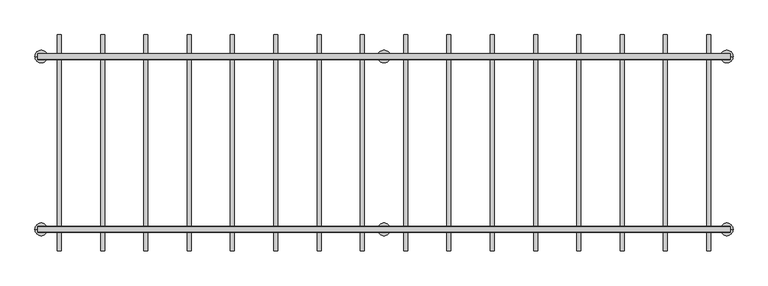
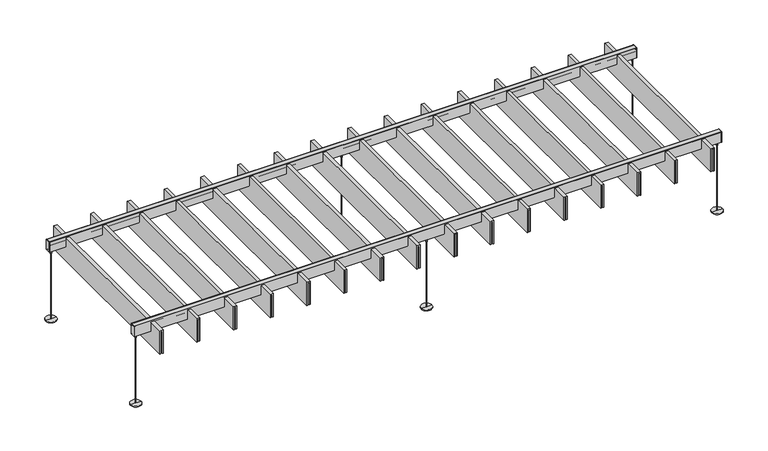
"""IFC4 building model written with IfcOpenShell, lengths in millimetres: light fixture geometry, Lighting_Fixture-Focal_Point-AirCore_Bridge-Truss-Seem_1_LED : FSM1SBW125LF30K1CUNVLD1J24_."""

from ifc_helpers import new_model, si_unit, frame, origin, place, context, project, spatial, polyline, circle_curve, outline, extrude, faceted_brep, source, transform, mapped, element, save
from ifc_brep_helpers import plane_surface, cylinder_surface, advanced_brep


def light_fixture_dba813e0(model_context):
    return source(origin(), model_context, "Body", "SolidModel", [
        extrude(outline(polyline([(2280.046875, 123.825), (2291.953125, 123.825), (2291.953125, -1343.025), (2280.046875, -1343.025), (2280.046875, 123.825)])), frame((0.0, 0.0, 486.3703125), z_axis=(0.0, 0.0, 1.0), x_axis=(1.0, 0.0, 0.0)), (0.0, 0.0, 1.0), 195.2625),
        extrude(outline(polyline([(689.5703125, 2299.890625), (689.5703125, 2272.109375), (486.3703125, 2272.109375), (486.3703125, 2280.046875), (681.6328125, 2280.046875), (681.6328125, 2291.953125), (486.3703125, 2291.953125), (486.3703125, 2299.890625), (689.5703125, 2299.890625)])), frame((0.0, -1371.6, 0.0), z_axis=(0.0, 1.0, 0.0), x_axis=(0.0, 0.0, 1.0)), (0.0, 0.0, 1.0), 1524.0),
        extrude(outline(polyline([(1975.246875, 123.825), (1987.153125, 123.825), (1987.153125, -1343.025), (1975.246875, -1343.025), (1975.246875, 123.825)])), frame((0.0, 0.0, 486.3703125), z_axis=(0.0, 0.0, 1.0), x_axis=(1.0, 0.0, 0.0)), (0.0, 0.0, 1.0), 195.2625),
        extrude(outline(polyline([(689.5703125, 1995.090625), (689.5703125, 1967.309375), (486.3703125, 1967.309375), (486.3703125, 1975.246875), (681.6328125, 1975.246875), (681.6328125, 1987.153125), (486.3703125, 1987.153125), (486.3703125, 1995.090625), (689.5703125, 1995.090625)])), frame((0.0, -1371.6, 0.0), z_axis=(0.0, 1.0, 0.0), x_axis=(0.0, 0.0, 1.0)), (0.0, 0.0, 1.0), 1524.0),
        extrude(outline(polyline([(1670.446875, 123.825), (1682.353125, 123.825), (1682.353125, -1343.025), (1670.446875, -1343.025), (1670.446875, 123.825)])), frame((0.0, 0.0, 486.3703125), z_axis=(0.0, 0.0, 1.0), x_axis=(1.0, 0.0, 0.0)), (0.0, 0.0, 1.0), 195.2625),
        extrude(outline(polyline([(689.5703125, 1690.290625), (689.5703125, 1662.509375), (486.3703125, 1662.509375), (486.3703125, 1670.446875), (681.6328125, 1670.446875), (681.6328125, 1682.353125), (486.3703125, 1682.353125), (486.3703125, 1690.290625), (689.5703125, 1690.290625)])), frame((0.0, -1371.6, 0.0), z_axis=(0.0, 1.0, 0.0), x_axis=(0.0, 0.0, 1.0)), (0.0, 0.0, 1.0), 1524.0),
        extrude(outline(polyline([(1365.646875, 123.825), (1377.553125, 123.825), (1377.553125, -1343.025), (1365.646875, -1343.025), (1365.646875, 123.825)])), frame((0.0, 0.0, 486.3703125), z_axis=(0.0, 0.0, 1.0), x_axis=(1.0, 0.0, 0.0)), (0.0, 0.0, 1.0), 195.2625),
        extrude(outline(polyline([(689.5703125, 1385.490625), (689.5703125, 1357.709375), (486.3703125, 1357.709375), (486.3703125, 1365.646875), (681.6328125, 1365.646875), (681.6328125, 1377.553125), (486.3703125, 1377.553125), (486.3703125, 1385.490625), (689.5703125, 1385.490625)])), frame((0.0, -1371.6, 0.0), z_axis=(0.0, 1.0, 0.0), x_axis=(0.0, 0.0, 1.0)), (0.0, 0.0, 1.0), 1524.0),
        extrude(outline(polyline([(1060.846875, 123.825), (1072.753125, 123.825), (1072.753125, -1343.025), (1060.846875, -1343.025), (1060.846875, 123.825)])), frame((0.0, 0.0, 486.3703125), z_axis=(0.0, 0.0, 1.0), x_axis=(1.0, 0.0, 0.0)), (0.0, 0.0, 1.0), 195.2625),
        extrude(outline(polyline([(689.5703125, 1080.690625), (689.5703125, 1052.909375), (486.3703125, 1052.909375), (486.3703125, 1060.846875), (681.6328125, 1060.846875), (681.6328125, 1072.753125), (486.3703125, 1072.753125), (486.3703125, 1080.690625), (689.5703125, 1080.690625)])), frame((0.0, -1371.6, 0.0), z_axis=(0.0, 1.0, 0.0), x_axis=(0.0, 0.0, 1.0)), (0.0, 0.0, 1.0), 1524.0),
        extrude(outline(polyline([(756.046875, 123.825), (767.953125, 123.825), (767.953125, -1343.025), (756.046875, -1343.025), (756.046875, 123.825)])), frame((0.0, 0.0, 486.3703125), z_axis=(0.0, 0.0, 1.0), x_axis=(1.0, 0.0, 0.0)), (0.0, 0.0, 1.0), 195.2625),
        extrude(outline(polyline([(689.5703125, 775.890625), (689.5703125, 748.109375), (486.3703125, 748.109375), (486.3703125, 756.046875), (681.6328125, 756.046875), (681.6328125, 767.953125), (486.3703125, 767.953125), (486.3703125, 775.890625), (689.5703125, 775.890625)])), frame((0.0, -1371.6, 0.0), z_axis=(0.0, 1.0, 0.0), x_axis=(0.0, 0.0, 1.0)), (0.0, 0.0, 1.0), 1524.0),
        extrude(outline(polyline([(451.246875, 123.825), (463.153125, 123.825), (463.153125, -1343.025), (451.246875, -1343.025), (451.246875, 123.825)])), frame((0.0, 0.0, 486.3703125), z_axis=(0.0, 0.0, 1.0), x_axis=(1.0, 0.0, 0.0)), (0.0, 0.0, 1.0), 195.2625),
        extrude(outline(polyline([(689.5703125, 471.090625), (689.5703125, 443.309375), (486.3703125, 443.309375), (486.3703125, 451.246875), (681.6328125, 451.246875), (681.6328125, 463.153125), (486.3703125, 463.153125), (486.3703125, 471.090625), (689.5703125, 471.090625)])), frame((0.0, -1371.6, 0.0), z_axis=(0.0, 1.0, 0.0), x_axis=(0.0, 0.0, 1.0)), (0.0, 0.0, 1.0), 1524.0),
        extrude(outline(polyline([(146.446875, 123.825), (158.353125, 123.825), (158.353125, -1343.025), (146.446875, -1343.025), (146.446875, 123.825)])), frame((0.0, 0.0, 486.3703125), z_axis=(0.0, 0.0, 1.0), x_axis=(1.0, 0.0, 0.0)), (0.0, 0.0, 1.0), 195.2625),
        extrude(outline(polyline([(689.5703125, 166.290625), (689.5703125, 138.509375), (486.3703125, 138.509375), (486.3703125, 146.446875), (681.6328125, 146.446875), (681.6328125, 158.353125), (486.3703125, 158.353125), (486.3703125, 166.290625), (689.5703125, 166.290625)])), frame((0.0, -1371.6, 0.0), z_axis=(0.0, 1.0, 0.0), x_axis=(0.0, 0.0, 1.0)), (0.0, 0.0, 1.0), 1524.0),
        extrude(outline(polyline([(-158.353125, 123.825), (-146.446875, 123.825), (-146.446875, -1343.025), (-158.353125, -1343.025), (-158.353125, 123.825)])), frame((0.0, 0.0, 486.3703125), z_axis=(0.0, 0.0, 1.0), x_axis=(1.0, 0.0, 0.0)), (0.0, 0.0, 1.0), 195.2625),
        extrude(outline(polyline([(689.5703125, -138.509375), (689.5703125, -166.290625), (486.3703125, -166.290625), (486.3703125, -158.353125), (681.6328125, -158.353125), (681.6328125, -146.446875), (486.3703125, -146.446875), (486.3703125, -138.509375), (689.5703125, -138.509375)])), frame((0.0, -1371.6, 0.0), z_axis=(0.0, 1.0, 0.0), x_axis=(0.0, 0.0, 1.0)), (0.0, 0.0, 1.0), 1524.0),
        extrude(outline(polyline([(-463.153125, 123.825), (-451.246875, 123.825), (-451.246875, -1343.025), (-463.153125, -1343.025), (-463.153125, 123.825)])), frame((0.0, 0.0, 486.3703125), z_axis=(0.0, 0.0, 1.0), x_axis=(1.0, 0.0, 0.0)), (0.0, 0.0, 1.0), 195.2625),
        extrude(outline(polyline([(689.5703125, -443.309375), (689.5703125, -471.090625), (486.3703125, -471.090625), (486.3703125, -463.153125), (681.6328125, -463.153125), (681.6328125, -451.246875), (486.3703125, -451.246875), (486.3703125, -443.309375), (689.5703125, -443.309375)])), frame((0.0, -1371.6, 0.0), z_axis=(0.0, 1.0, 0.0), x_axis=(0.0, 0.0, 1.0)), (0.0, 0.0, 1.0), 1524.0),
        extrude(outline(polyline([(-767.953125, 123.825), (-756.046875, 123.825), (-756.046875, -1343.025), (-767.953125, -1343.025), (-767.953125, 123.825)])), frame((0.0, 0.0, 486.3703125), z_axis=(0.0, 0.0, 1.0), x_axis=(1.0, 0.0, 0.0)), (0.0, 0.0, 1.0), 195.2625),
        extrude(outline(polyline([(689.5703125, -748.109375), (689.5703125, -775.890625), (486.3703125, -775.890625), (486.3703125, -767.953125), (681.6328125, -767.953125), (681.6328125, -756.046875), (486.3703125, -756.046875), (486.3703125, -748.109375), (689.5703125, -748.109375)])), frame((0.0, -1371.6, 0.0), z_axis=(0.0, 1.0, 0.0), x_axis=(0.0, 0.0, 1.0)), (0.0, 0.0, 1.0), 1524.0),
        extrude(outline(polyline([(-1072.753125, 123.825), (-1060.846875, 123.825), (-1060.846875, -1343.025), (-1072.753125, -1343.025), (-1072.753125, 123.825)])), frame((0.0, 0.0, 486.3703125), z_axis=(0.0, 0.0, 1.0), x_axis=(1.0, 0.0, 0.0)), (0.0, 0.0, 1.0), 195.2625),
        extrude(outline(polyline([(689.5703125, -1052.909375), (689.5703125, -1080.690625), (486.3703125, -1080.690625), (486.3703125, -1072.753125), (681.6328125, -1072.753125), (681.6328125, -1060.846875), (486.3703125, -1060.846875), (486.3703125, -1052.909375), (689.5703125, -1052.909375)])), frame((0.0, -1371.6, 0.0), z_axis=(0.0, 1.0, 0.0), x_axis=(0.0, 0.0, 1.0)), (0.0, 0.0, 1.0), 1524.0),
        extrude(outline(polyline([(-1377.553125, 123.825), (-1365.646875, 123.825), (-1365.646875, -1343.025), (-1377.553125, -1343.025), (-1377.553125, 123.825)])), frame((0.0, 0.0, 486.3703125), z_axis=(0.0, 0.0, 1.0), x_axis=(1.0, 0.0, 0.0)), (0.0, 0.0, 1.0), 195.2625),
        extrude(outline(polyline([(689.5703125, -1357.709375), (689.5703125, -1385.490625), (486.3703125, -1385.490625), (486.3703125, -1377.553125), (681.6328125, -1377.553125), (681.6328125, -1365.646875), (486.3703125, -1365.646875), (486.3703125, -1357.709375), (689.5703125, -1357.709375)])), frame((0.0, -1371.6, 0.0), z_axis=(0.0, 1.0, 0.0), x_axis=(0.0, 0.0, 1.0)), (0.0, 0.0, 1.0), 1524.0),
        advanced_brep(
        [(2.1602631, -1219.2, 6.35), (-2.1602631, -1219.2, 6.35), (-2.1602631, -1219.2, 578.5929436), (2.1602631, -1219.2, 578.5929436), (4.6304584, -1219.2, 617.2870305), (-4.6304584, -1219.2, 617.2870305), (0.0, -1219.2, 617.2870305), (4.6304584, -1219.2, 578.5929436), (-4.6304584, -1219.2, 578.5929436), (44.45, -1219.2, 6.35), (-44.45, -1219.2, 6.35), (44.45, -1219.2, 0.0), (-44.45, -1219.2, 0.0), (0.0, -1219.2, 0.0)],
        [
            (0, 1, circle_curve(frame((0.0, -1219.2, 6.35), z_axis=(0.0, 0.0, 1.0), x_axis=(-1.0, 0.0, 0.0)), 2.1602631)),
            (1, 2),
            (2, 3, circle_curve(frame((0.0, -1219.2, 578.5929436), z_axis=(0.0, 0.0, -1.0), x_axis=(-1.0, 0.0, 0.0)), 2.1602631)),
            (3, 0),
            (1, 0, circle_curve(frame((0.0, -1219.2, 6.35), z_axis=(0.0, 0.0, 1.0), x_axis=(-1.0, 0.0, 0.0)), 2.1602631)),
            (3, 2, circle_curve(frame((0.0, -1219.2, 578.5929436), z_axis=(0.0, 0.0, -1.0), x_axis=(-1.0, 0.0, 0.0)), 2.1602631)),
            (4, 5, circle_curve(frame((0.0, -1219.2, 617.2870305), z_axis=(0.0, 0.0, 1.0), x_axis=(-1.0, 0.0, 0.0)), 4.6304584)),
            (5, 6),
            (6, 4),
            (5, 4, circle_curve(frame((0.0, -1219.2, 617.2870305), z_axis=(0.0, 0.0, 1.0), x_axis=(-1.0, 0.0, 0.0)), 4.6304584)),
            (7, 8, circle_curve(frame((0.0, -1219.2, 578.5929436), z_axis=(0.0, 0.0, 1.0), x_axis=(-1.0, 0.0, 0.0)), 4.6304584)),
            (8, 5),
            (4, 7),
            (8, 7, circle_curve(frame((0.0, -1219.2, 578.5929436), z_axis=(0.0, 0.0, 1.0), x_axis=(-1.0, 0.0, 0.0)), 4.6304584)),
            (2, 8),
            (7, 3),
            (9, 10, circle_curve(frame((0.0, -1219.2, 6.35), z_axis=(0.0, 0.0, 1.0), x_axis=(-1.0, 0.0, 0.0)), 44.45)),
            (10, 1),
            (0, 9),
            (10, 9, circle_curve(frame((0.0, -1219.2, 6.35), z_axis=(0.0, 0.0, 1.0), x_axis=(-1.0, 0.0, 0.0)), 44.45)),
            (11, 12, circle_curve(frame((0.0, -1219.2, 0.0), z_axis=(0.0, 0.0, 1.0), x_axis=(-1.0, 0.0, 0.0)), 44.45)),
            (12, 10),
            (9, 11),
            (12, 11, circle_curve(frame((0.0, -1219.2, 0.0), z_axis=(0.0, 0.0, 1.0), x_axis=(-1.0, 0.0, 0.0)), 44.45)),
            (13, 12),
            (11, 13),
        ],
        [
            cylinder_surface(frame((0.0, -1219.2, 1013.5679436), z_axis=(0.0, 0.0, -1.0), x_axis=(-1.0, 0.0, 0.0)), 2.1602631),
            plane_surface(frame((0.0, -1219.2, 617.2870305), z_axis=(0.0, 0.0, 1.0), x_axis=(-1.0, 0.0, 0.0))),
            cylinder_surface(frame((0.0, -1219.2, 1013.5679436), z_axis=(0.0, 0.0, -1.0), x_axis=(-1.0, 0.0, 0.0)), 4.6304584),
            plane_surface(frame((0.0, -1219.2, 578.5929436), z_axis=(0.0, 0.0, -1.0), x_axis=(-1.0, 0.0, 0.0))),
            plane_surface(frame((0.0, -1219.2, 6.35), z_axis=(0.0, 0.0, 1.0), x_axis=(-1.0, 0.0, 0.0))),
            cylinder_surface(frame((0.0, -1219.2, 1013.5679436), z_axis=(0.0, 0.0, -1.0), x_axis=(-1.0, 0.0, 0.0)), 44.45),
            plane_surface(frame((0.0, -1219.2, 0.0), z_axis=(0.0, 0.0, -1.0), x_axis=(-1.0, 0.0, 0.0))),
        ],
        [
            (0, [[1, 2, 3, 4]]),
            (0, [[5, -4, 6, -2]]),
            (1, [[7, 8, 9]]),
            (1, [[10, -9, -8]]),
            (2, [[11, 12, -7, 13]]),
            (2, [[14, -13, -10, -12]]),
            (3, [[-3, 15, -11, 16]]),
            (3, [[-6, -16, -14, -15]]),
            (4, [[17, 18, -1, 19]]),
            (4, [[20, -19, -5, -18]]),
            (5, [[21, 22, -17, 23]]),
            (5, [[24, -23, -20, -22]]),
            (6, [[25, -21, 26]]),
            (6, [[-26, -24, -25]]),
        ],
    ),
        advanced_brep(
        [(2.1602631, 0.0, 6.35), (-2.1602631, 0.0, 6.35), (-2.1602631, 0.0, 578.5929436), (2.1602631, 0.0, 578.5929436), (4.6304584, 0.0, 617.2870305), (-4.6304584, 0.0, 617.2870305), (0.0, 0.0, 617.2870305), (4.6304584, 0.0, 578.5929436), (-4.6304584, 0.0, 578.5929436), (44.45, 0.0, 6.35), (-44.45, 0.0, 6.35), (44.45, 0.0, 0.0), (-44.45, 0.0, 0.0), (0.0, 0.0, 0.0)],
        [
            (0, 1, circle_curve(frame((0.0, 0.0, 6.35), z_axis=(0.0, 0.0, 1.0), x_axis=(-1.0, 0.0, 0.0)), 2.1602631)),
            (1, 2),
            (2, 3, circle_curve(frame((0.0, 0.0, 578.5929436), z_axis=(0.0, 0.0, -1.0), x_axis=(-1.0, 0.0, 0.0)), 2.1602631)),
            (3, 0),
            (1, 0, circle_curve(frame((0.0, 0.0, 6.35), z_axis=(0.0, 0.0, 1.0), x_axis=(-1.0, 0.0, 0.0)), 2.1602631)),
            (3, 2, circle_curve(frame((0.0, 0.0, 578.5929436), z_axis=(0.0, 0.0, -1.0), x_axis=(-1.0, 0.0, 0.0)), 2.1602631)),
            (4, 5, circle_curve(frame((0.0, 0.0, 617.2870305), z_axis=(0.0, 0.0, 1.0), x_axis=(-1.0, 0.0, 0.0)), 4.6304584)),
            (5, 6),
            (6, 4),
            (5, 4, circle_curve(frame((0.0, 0.0, 617.2870305), z_axis=(0.0, 0.0, 1.0), x_axis=(-1.0, 0.0, 0.0)), 4.6304584)),
            (7, 8, circle_curve(frame((0.0, 0.0, 578.5929436), z_axis=(0.0, 0.0, 1.0), x_axis=(-1.0, 0.0, 0.0)), 4.6304584)),
            (8, 5),
            (4, 7),
            (8, 7, circle_curve(frame((0.0, 0.0, 578.5929436), z_axis=(0.0, 0.0, 1.0), x_axis=(-1.0, 0.0, 0.0)), 4.6304584)),
            (2, 8),
            (7, 3),
            (9, 10, circle_curve(frame((0.0, 0.0, 6.35), z_axis=(0.0, 0.0, 1.0), x_axis=(-1.0, 0.0, 0.0)), 44.45)),
            (10, 1),
            (0, 9),
            (10, 9, circle_curve(frame((0.0, 0.0, 6.35), z_axis=(0.0, 0.0, 1.0), x_axis=(-1.0, 0.0, 0.0)), 44.45)),
            (11, 12, circle_curve(frame((0.0, 0.0, 0.0), z_axis=(0.0, 0.0, 1.0), x_axis=(-1.0, 0.0, 0.0)), 44.45)),
            (12, 10),
            (9, 11),
            (12, 11, circle_curve(frame((0.0, 0.0, 0.0), z_axis=(0.0, 0.0, 1.0), x_axis=(-1.0, 0.0, 0.0)), 44.45)),
            (13, 12),
            (11, 13),
        ],
        [
            cylinder_surface(frame((0.0, 0.0, 1013.5679436), z_axis=(0.0, 0.0, -1.0), x_axis=(-1.0, 0.0, 0.0)), 2.1602631),
            plane_surface(frame((0.0, 0.0, 617.2870305), z_axis=(0.0, 0.0, 1.0), x_axis=(-1.0, 0.0, 0.0))),
            cylinder_surface(frame((0.0, 0.0, 1013.5679436), z_axis=(0.0, 0.0, -1.0), x_axis=(-1.0, 0.0, 0.0)), 4.6304584),
            plane_surface(frame((0.0, 0.0, 578.5929436), z_axis=(0.0, 0.0, -1.0), x_axis=(-1.0, 0.0, 0.0))),
            plane_surface(frame((0.0, 0.0, 6.35), z_axis=(0.0, 0.0, 1.0), x_axis=(-1.0, 0.0, 0.0))),
            cylinder_surface(frame((0.0, 0.0, 1013.5679436), z_axis=(0.0, 0.0, -1.0), x_axis=(-1.0, 0.0, 0.0)), 44.45),
            plane_surface(frame((0.0, 0.0, 0.0), z_axis=(0.0, 0.0, -1.0), x_axis=(-1.0, 0.0, 0.0))),
        ],
        [
            (0, [[1, 2, 3, 4]]),
            (0, [[5, -4, 6, -2]]),
            (1, [[7, 8, 9]]),
            (1, [[10, -9, -8]]),
            (2, [[11, 12, -7, 13]]),
            (2, [[14, -13, -10, -12]]),
            (3, [[-3, 15, -11, 16]]),
            (3, [[-6, -16, -14, -15]]),
            (4, [[17, 18, -1, 19]]),
            (4, [[20, -19, -5, -18]]),
            (5, [[21, 22, -17, 23]]),
            (5, [[24, -23, -20, -22]]),
            (6, [[25, -21, 26]]),
            (6, [[-26, -24, -25]]),
        ],
    ),
        advanced_brep(
        [(2415.1602631, -1219.2, 6.35), (2410.8397369, -1219.2, 6.35), (2410.8397369, -1219.2, 578.5929436), (2415.1602631, -1219.2, 578.5929436), (2417.6304584, -1219.2, 617.2870305), (2408.3695416, -1219.2, 617.2870305), (2413.0, -1219.2, 617.2870305), (2417.6304584, -1219.2, 578.5929436), (2408.3695416, -1219.2, 578.5929436), (2457.45, -1219.2, 6.35), (2368.55, -1219.2, 6.35), (2457.45, -1219.2, 0.0), (2368.55, -1219.2, 0.0), (2413.0, -1219.2, 0.0)],
        [
            (0, 1, circle_curve(frame((2413.0, -1219.2, 6.35), z_axis=(0.0, 0.0, 1.0), x_axis=(-1.0, 0.0, 0.0)), 2.1602631)),
            (1, 2),
            (2, 3, circle_curve(frame((2413.0, -1219.2, 578.5929436), z_axis=(0.0, 0.0, -1.0), x_axis=(-1.0, 0.0, 0.0)), 2.1602631)),
            (3, 0),
            (1, 0, circle_curve(frame((2413.0, -1219.2, 6.35), z_axis=(0.0, 0.0, 1.0), x_axis=(-1.0, 0.0, 0.0)), 2.1602631)),
            (3, 2, circle_curve(frame((2413.0, -1219.2, 578.5929436), z_axis=(0.0, 0.0, -1.0), x_axis=(-1.0, 0.0, 0.0)), 2.1602631)),
            (4, 5, circle_curve(frame((2413.0, -1219.2, 617.2870305), z_axis=(0.0, 0.0, 1.0), x_axis=(-1.0, 0.0, 0.0)), 4.6304584)),
            (5, 6),
            (6, 4),
            (5, 4, circle_curve(frame((2413.0, -1219.2, 617.2870305), z_axis=(0.0, 0.0, 1.0), x_axis=(-1.0, 0.0, 0.0)), 4.6304584)),
            (7, 8, circle_curve(frame((2413.0, -1219.2, 578.5929436), z_axis=(0.0, 0.0, 1.0), x_axis=(-1.0, 0.0, 0.0)), 4.6304584)),
            (8, 5),
            (4, 7),
            (8, 7, circle_curve(frame((2413.0, -1219.2, 578.5929436), z_axis=(0.0, 0.0, 1.0), x_axis=(-1.0, 0.0, 0.0)), 4.6304584)),
            (2, 8),
            (7, 3),
            (9, 10, circle_curve(frame((2413.0, -1219.2, 6.35), z_axis=(0.0, 0.0, 1.0), x_axis=(-1.0, 0.0, 0.0)), 44.45)),
            (10, 1),
            (0, 9),
            (10, 9, circle_curve(frame((2413.0, -1219.2, 6.35), z_axis=(0.0, 0.0, 1.0), x_axis=(-1.0, 0.0, 0.0)), 44.45)),
            (11, 12, circle_curve(frame((2413.0, -1219.2, 0.0), z_axis=(0.0, 0.0, 1.0), x_axis=(-1.0, 0.0, 0.0)), 44.45)),
            (12, 10),
            (9, 11),
            (12, 11, circle_curve(frame((2413.0, -1219.2, 0.0), z_axis=(0.0, 0.0, 1.0), x_axis=(-1.0, 0.0, 0.0)), 44.45)),
            (13, 12),
            (11, 13),
        ],
        [
            cylinder_surface(frame((2413.0, -1219.2, 1013.5679436), z_axis=(0.0, 0.0, -1.0), x_axis=(-1.0, 0.0, 0.0)), 2.1602631),
            plane_surface(frame((2413.0, -1219.2, 617.2870305), z_axis=(0.0, 0.0, 1.0), x_axis=(-1.0, 0.0, 0.0))),
            cylinder_surface(frame((2413.0, -1219.2, 1013.5679436), z_axis=(0.0, 0.0, -1.0), x_axis=(-1.0, 0.0, 0.0)), 4.6304584),
            plane_surface(frame((2413.0, -1219.2, 578.5929436), z_axis=(0.0, 0.0, -1.0), x_axis=(-1.0, 0.0, 0.0))),
            plane_surface(frame((2413.0, -1219.2, 6.35), z_axis=(0.0, 0.0, 1.0), x_axis=(-1.0, 0.0, 0.0))),
            cylinder_surface(frame((2413.0, -1219.2, 1013.5679436), z_axis=(0.0, 0.0, -1.0), x_axis=(-1.0, 0.0, 0.0)), 44.45),
            plane_surface(frame((2413.0, -1219.2, 0.0), z_axis=(0.0, 0.0, -1.0), x_axis=(-1.0, 0.0, 0.0))),
        ],
        [
            (0, [[1, 2, 3, 4]]),
            (0, [[5, -4, 6, -2]]),
            (1, [[7, 8, 9]]),
            (1, [[10, -9, -8]]),
            (2, [[11, 12, -7, 13]]),
            (2, [[14, -13, -10, -12]]),
            (3, [[-3, 15, -11, 16]]),
            (3, [[-6, -16, -14, -15]]),
            (4, [[17, 18, -1, 19]]),
            (4, [[20, -19, -5, -18]]),
            (5, [[21, 22, -17, 23]]),
            (5, [[24, -23, -20, -22]]),
            (6, [[25, -21, 26]]),
            (6, [[-26, -24, -25]]),
        ],
    ),
        advanced_brep(
        [(-2410.8397369, -1219.2, 6.35), (-2415.1602631, -1219.2, 6.35), (-2415.1602631, -1219.2, 578.5929436), (-2410.8397369, -1219.2, 578.5929436), (-2408.3695416, -1219.2, 617.2870305), (-2417.6304584, -1219.2, 617.2870305), (-2413.0, -1219.2, 617.2870305), (-2408.3695416, -1219.2, 578.5929436), (-2417.6304584, -1219.2, 578.5929436), (-2368.55, -1219.2, 6.35), (-2457.45, -1219.2, 6.35), (-2368.55, -1219.2, 0.0), (-2457.45, -1219.2, 0.0), (-2413.0, -1219.2, 0.0)],
        [
            (0, 1, circle_curve(frame((-2413.0, -1219.2, 6.35), z_axis=(0.0, 0.0, 1.0), x_axis=(-1.0, 0.0, 0.0)), 2.1602631)),
            (1, 2),
            (2, 3, circle_curve(frame((-2413.0, -1219.2, 578.5929436), z_axis=(0.0, 0.0, -1.0), x_axis=(-1.0, 0.0, 0.0)), 2.1602631)),
            (3, 0),
            (1, 0, circle_curve(frame((-2413.0, -1219.2, 6.35), z_axis=(0.0, 0.0, 1.0), x_axis=(-1.0, 0.0, 0.0)), 2.1602631)),
            (3, 2, circle_curve(frame((-2413.0, -1219.2, 578.5929436), z_axis=(0.0, 0.0, -1.0), x_axis=(-1.0, 0.0, 0.0)), 2.1602631)),
            (4, 5, circle_curve(frame((-2413.0, -1219.2, 617.2870305), z_axis=(0.0, 0.0, 1.0), x_axis=(-1.0, 0.0, 0.0)), 4.6304584)),
            (5, 6),
            (6, 4),
            (5, 4, circle_curve(frame((-2413.0, -1219.2, 617.2870305), z_axis=(0.0, 0.0, 1.0), x_axis=(-1.0, 0.0, 0.0)), 4.6304584)),
            (7, 8, circle_curve(frame((-2413.0, -1219.2, 578.5929436), z_axis=(0.0, 0.0, 1.0), x_axis=(-1.0, 0.0, 0.0)), 4.6304584)),
            (8, 5),
            (4, 7),
            (8, 7, circle_curve(frame((-2413.0, -1219.2, 578.5929436), z_axis=(0.0, 0.0, 1.0), x_axis=(-1.0, 0.0, 0.0)), 4.6304584)),
            (2, 8),
            (7, 3),
            (9, 10, circle_curve(frame((-2413.0, -1219.2, 6.35), z_axis=(0.0, 0.0, 1.0), x_axis=(-1.0, 0.0, 0.0)), 44.45)),
            (10, 1),
            (0, 9),
            (10, 9, circle_curve(frame((-2413.0, -1219.2, 6.35), z_axis=(0.0, 0.0, 1.0), x_axis=(-1.0, 0.0, 0.0)), 44.45)),
            (11, 12, circle_curve(frame((-2413.0, -1219.2, 0.0), z_axis=(0.0, 0.0, 1.0), x_axis=(-1.0, 0.0, 0.0)), 44.45)),
            (12, 10),
            (9, 11),
            (12, 11, circle_curve(frame((-2413.0, -1219.2, 0.0), z_axis=(0.0, 0.0, 1.0), x_axis=(-1.0, 0.0, 0.0)), 44.45)),
            (13, 12),
            (11, 13),
        ],
        [
            cylinder_surface(frame((-2413.0, -1219.2, 1013.5679436), z_axis=(0.0, 0.0, -1.0), x_axis=(-1.0, 0.0, 0.0)), 2.1602631),
            plane_surface(frame((-2413.0, -1219.2, 617.2870305), z_axis=(0.0, 0.0, 1.0), x_axis=(-1.0, 0.0, 0.0))),
            cylinder_surface(frame((-2413.0, -1219.2, 1013.5679436), z_axis=(0.0, 0.0, -1.0), x_axis=(-1.0, 0.0, 0.0)), 4.6304584),
            plane_surface(frame((-2413.0, -1219.2, 578.5929436), z_axis=(0.0, 0.0, -1.0), x_axis=(-1.0, 0.0, 0.0))),
            plane_surface(frame((-2413.0, -1219.2, 6.35), z_axis=(0.0, 0.0, 1.0), x_axis=(-1.0, 0.0, 0.0))),
            cylinder_surface(frame((-2413.0, -1219.2, 1013.5679436), z_axis=(0.0, 0.0, -1.0), x_axis=(-1.0, 0.0, 0.0)), 44.45),
            plane_surface(frame((-2413.0, -1219.2, 0.0), z_axis=(0.0, 0.0, -1.0), x_axis=(-1.0, 0.0, 0.0))),
        ],
        [
            (0, [[1, 2, 3, 4]]),
            (0, [[5, -4, 6, -2]]),
            (1, [[7, 8, 9]]),
            (1, [[10, -9, -8]]),
            (2, [[11, 12, -7, 13]]),
            (2, [[14, -13, -10, -12]]),
            (3, [[-3, 15, -11, 16]]),
            (3, [[-6, -16, -14, -15]]),
            (4, [[17, 18, -1, 19]]),
            (4, [[20, -19, -5, -18]]),
            (5, [[21, 22, -17, 23]]),
            (5, [[24, -23, -20, -22]]),
            (6, [[25, -21, 26]]),
            (6, [[-26, -24, -25]]),
        ],
    ),
        faceted_brep([(-2435.7759239, -1200.941745, 683.6980748), (-2435.7759239, -1203.4889979, 680.3177561), (-2435.7759239, -1204.7568318, 681.2731375), (-2435.7759239, -1202.1557343, 684.7249104), (-2435.7759239, -1205.3145845, 686.5486734), (-2435.7759239, -1203.0635963, 692.4126981), (-2435.7759239, -1201.735495, 692.4126981), (-2435.7759239, -1201.735495, 694.2092414), (-2435.7759239, -1236.664505, 694.2092414), (-2435.7759239, -1236.664505, 692.4126981), (-2435.7759239, -1235.3364037, 692.4126981), (-2435.7759239, -1233.0854155, 686.5486734), (-2435.7759239, -1236.2442657, 684.7249104), (-2435.7759239, -1233.6431682, 681.2731375), (-2435.7759239, -1234.9024761, 680.3241809), (-2435.7759239, -1237.458255, 683.715814), (-2435.7759239, -1237.458255, 685.8571004), (-2435.7759239, -1235.0533687, 687.2455621), (-2435.7759239, -1236.4274622, 690.8251981), (-2435.7759239, -1238.252005, 690.8251981), (-2435.7759239, -1238.252005, 698.5), (-2435.7759239, -1200.147995, 698.5), (-2435.7759239, -1200.147995, 690.8251981), (-2435.7759239, -1201.9725378, 690.8251981), (-2435.7759239, -1203.3466313, 687.2455621), (-2435.7759239, -1200.941745, 685.8571004), (2435.7759239, -1200.941745, 683.6980748), (2435.7759239, -1200.941745, 685.8571004), (2435.7759239, -1203.3466313, 687.2455621), (2435.7759239, -1201.9725378, 690.8251981), (2435.7759239, -1200.147995, 690.8251981), (2435.7759239, -1200.147995, 698.5), (2435.7759239, -1238.252005, 698.5), (2435.7759239, -1238.252005, 690.8251981), (2435.7759239, -1236.4274622, 690.8251981), (2435.7759239, -1235.0533687, 687.2455621), (2435.7759239, -1237.458255, 685.8571004), (2435.7759239, -1237.458255, 683.715814), (2435.7759239, -1234.9024761, 680.3241809), (2435.7759239, -1233.6431682, 681.2731375), (2435.7759239, -1236.2442657, 684.7249104), (2435.7759239, -1233.0854155, 686.5486734), (2435.7759239, -1235.3364037, 692.4126981), (2435.7759239, -1236.664505, 692.4126981), (2435.7759239, -1236.664505, 694.2092414), (2435.7759239, -1201.735495, 694.2092414), (2435.7759239, -1201.735495, 692.4126981), (2435.7759239, -1203.0635963, 692.4126981), (2435.7759239, -1205.3145845, 686.5486734), (2435.7759239, -1202.1557343, 684.7249104), (2435.7759239, -1204.7568318, 681.2731375), (2435.7759239, -1203.4889979, 680.3177561), (2434.1726379, -1201.735495, 694.2092414), (2434.1726379, -1201.735495, 696.9125), (-2434.1726379, -1201.735495, 696.9125), (-2434.1726379, -1201.735495, 694.2092414), (2434.1726379, -1236.664505, 696.9125), (-2434.1726379, -1236.664505, 696.9125), (-2434.1726379, -1236.664505, 694.2092414), (2434.1726379, -1236.664505, 694.2092414), (2434.1726379, -1238.252005, 698.5), (-2434.1726379, -1238.252005, 698.5), (2434.1726379, -1200.147995, 698.5), (-2434.1726379, -1200.147995, 698.5)], [[[0, 1, 2, 3, 4, 5, 6, 7, 8, 9, 10, 11, 12, 13, 14, 15, 16, 17, 18, 19, 20, 21, 22, 23, 24, 25]], [[26, 27, 28, 29, 30, 31, 32, 33, 34, 35, 36, 37, 38, 39, 40, 41, 42, 43, 44, 45, 46, 47, 48, 49, 50, 51]], [[1, 0, 26, 51]], [[2, 1, 51, 50]], [[3, 2, 50, 49]], [[4, 3, 49, 48]], [[5, 4, 48, 47]], [[6, 5, 47, 46]], [[6, 46, 45, 52, 53, 54, 55, 7]], [[54, 53, 56, 57]], [[43, 9, 8, 58, 57, 56, 59, 44]], [[10, 9, 43, 42]], [[11, 10, 42, 41]], [[12, 11, 41, 40]], [[13, 12, 40, 39]], [[14, 13, 39, 38]], [[15, 14, 38, 37]], [[16, 15, 37, 36]], [[17, 16, 36, 35]], [[18, 17, 35, 34]], [[19, 18, 34, 33]], [[20, 19, 33, 32, 60, 61]], [[21, 20, 61, 60, 32, 31, 62, 63]], [[31, 30, 22, 21, 63, 62]], [[23, 22, 30, 29]], [[24, 23, 29, 28]], [[25, 24, 28, 27]], [[0, 25, 27, 26]], [[8, 7, 55, 58]], [[45, 44, 59, 52]], [[58, 55, 54, 57]], [[52, 59, 56, 53]]]),
        extrude(outline(polyline([(2438.4, -1197.9671875), (2438.4, -1240.4328125), (2435.7759239, -1240.4328125), (2435.7759239, -1197.9671875), (2438.4, -1197.9671875)])), frame((0.0, 0.0, 609.6), z_axis=(0.0, 0.0, 1.0), x_axis=(1.0, 0.0, 0.0)), (0.0, 0.0, 1.0), 88.9),
        extrude(outline(polyline([(-2438.4, -1197.9671875), (-2435.7759239, -1197.9671875), (-2435.7759239, -1240.4328125), (-2438.4, -1240.4328125), (-2438.4, -1197.9671875)])), frame((0.0, 0.0, 609.6), z_axis=(0.0, 0.0, 1.0), x_axis=(1.0, 0.0, 0.0)), (0.0, 0.0, 1.0), 88.9),
        extrude(outline(polyline([(-1197.9671875, 698.5), (-1197.9671875, 609.6), (-1199.6341563, 609.6), (-1202.5761622, 611.6821699), (-1201.7320821, 612.8748144), (-1200.0469329, 611.6821699), (-1200.0469329, 615.2558491), (-1238.3530671, 615.2558491), (-1238.3530671, 611.6821699), (-1236.6679179, 612.8748144), (-1235.8238378, 611.6821699), (-1238.7658437, 609.6), (-1240.4328125, 609.6), (-1240.4328125, 698.5), (-1238.252005, 698.5), (-1238.252005, 667.2378262), (-1232.5446628, 664.4541694), (-1235.7752011, 657.8305842), (-1238.252005, 657.8305842), (-1238.252005, 618.8340085), (-1236.689624, 617.5230152), (-1230.8590079, 617.5230152), (-1230.8590079, 622.6953899), (-1229.3171022, 624.2372956), (-1225.3086881, 624.2372956), (-1223.7777065, 622.706314), (-1223.7777065, 617.5230152), (-1220.4903926, 617.5230152), (-1220.4903926, 623.9573244), (-1217.9096074, 623.9573244), (-1217.9096074, 617.5230152), (-1214.6222935, 617.5230152), (-1214.6222935, 622.706314), (-1213.0913119, 624.2372956), (-1209.0828978, 624.2372956), (-1207.5409921, 622.6953899), (-1207.5409921, 617.5230152), (-1201.710376, 617.5230152), (-1200.147995, 618.8340085), (-1200.147995, 657.8305842), (-1202.6247989, 657.8305842), (-1205.8553372, 664.4541694), (-1200.147995, 667.2378262), (-1200.147995, 698.5), (-1197.9671875, 698.5)])), frame((-2435.7759239, 0.0, 0.0), z_axis=(1.0, 0.0, 0.0), x_axis=(0.0, 1.0, 0.0)), (0.0, 0.0, 1.0), 4871.5518478),
        extrude(outline(polyline([(-1202.9544627, 687.0191435), (-1201.4016005, 689.7087796), (-1200.7141929, 689.3119046), (-1201.87018, 687.3096761), (-1200.147995, 686.3153722), (-1200.147995, 667.2378262), (-1205.8553372, 664.4541694), (-1232.5446628, 664.4541694), (-1238.252005, 667.2378262), (-1238.252005, 686.3153722), (-1236.52982, 687.3096761), (-1237.6858071, 689.3119046), (-1236.9983995, 689.7087796), (-1235.4455373, 687.0191435), (-1237.458255, 685.8571004), (-1237.458255, 667.7338163), (-1232.3614111, 665.2479194), (-1206.0385889, 665.2479194), (-1200.941745, 667.7338163), (-1200.941745, 685.8571004), (-1202.9544627, 687.0191435)])), frame((-2435.7759239, 0.0, 0.0), z_axis=(1.0, 0.0, 0.0), x_axis=(0.0, 1.0, 0.0)), (0.0, 0.0, 1.0), 4871.5518478),
        extrude(outline(polyline([(-1682.353125, 123.825), (-1670.446875, 123.825), (-1670.446875, -1343.025), (-1682.353125, -1343.025), (-1682.353125, 123.825)])), frame((0.0, 0.0, 486.3703125), z_axis=(0.0, 0.0, 1.0), x_axis=(1.0, 0.0, 0.0)), (0.0, 0.0, 1.0), 195.2625),
        extrude(outline(polyline([(689.5703125, -1662.509375), (689.5703125, -1690.290625), (486.3703125, -1690.290625), (486.3703125, -1682.353125), (681.6328125, -1682.353125), (681.6328125, -1670.446875), (486.3703125, -1670.446875), (486.3703125, -1662.509375), (689.5703125, -1662.509375)])), frame((0.0, -1371.6, 0.0), z_axis=(0.0, 1.0, 0.0), x_axis=(0.0, 0.0, 1.0)), (0.0, 0.0, 1.0), 1524.0),
        extrude(outline(polyline([(-1987.153125, 123.825), (-1975.246875, 123.825), (-1975.246875, -1343.025), (-1987.153125, -1343.025), (-1987.153125, 123.825)])), frame((0.0, 0.0, 486.3703125), z_axis=(0.0, 0.0, 1.0), x_axis=(1.0, 0.0, 0.0)), (0.0, 0.0, 1.0), 195.2625),
        extrude(outline(polyline([(689.5703125, -1967.309375), (689.5703125, -1995.090625), (486.3703125, -1995.090625), (486.3703125, -1987.153125), (681.6328125, -1987.153125), (681.6328125, -1975.246875), (486.3703125, -1975.246875), (486.3703125, -1967.309375), (689.5703125, -1967.309375)])), frame((0.0, -1371.6, 0.0), z_axis=(0.0, 1.0, 0.0), x_axis=(0.0, 0.0, 1.0)), (0.0, 0.0, 1.0), 1524.0),
        extrude(outline(polyline([(-2291.953125, 123.825), (-2280.046875, 123.825), (-2280.046875, -1343.025), (-2291.953125, -1343.025), (-2291.953125, 123.825)])), frame((0.0, 0.0, 486.3703125), z_axis=(0.0, 0.0, 1.0), x_axis=(1.0, 0.0, 0.0)), (0.0, 0.0, 1.0), 195.2625),
        extrude(outline(polyline([(689.5703125, -2272.109375), (689.5703125, -2299.890625), (486.3703125, -2299.890625), (486.3703125, -2291.953125), (681.6328125, -2291.953125), (681.6328125, -2280.046875), (486.3703125, -2280.046875), (486.3703125, -2272.109375), (689.5703125, -2272.109375)])), frame((0.0, -1371.6, 0.0), z_axis=(0.0, 1.0, 0.0), x_axis=(0.0, 0.0, 1.0)), (0.0, 0.0, 1.0), 1524.0),
        advanced_brep(
        [(2415.1602631, 0.0, 6.35), (2410.8397369, 0.0, 6.35), (2410.8397369, 0.0, 578.5929436), (2415.1602631, 0.0, 578.5929436), (2417.6304584, 0.0, 617.2870305), (2408.3695416, 0.0, 617.2870305), (2413.0, 0.0, 617.2870305), (2417.6304584, 0.0, 578.5929436), (2408.3695416, 0.0, 578.5929436), (2457.45, 0.0, 6.35), (2368.55, 0.0, 6.35), (2457.45, 0.0, 0.0), (2368.55, 0.0, 0.0), (2413.0, 0.0, 0.0)],
        [
            (0, 1, circle_curve(frame((2413.0, 0.0, 6.35), z_axis=(0.0, 0.0, 1.0), x_axis=(-1.0, 0.0, 0.0)), 2.1602631)),
            (1, 2),
            (2, 3, circle_curve(frame((2413.0, 0.0, 578.5929436), z_axis=(0.0, 0.0, -1.0), x_axis=(-1.0, 0.0, 0.0)), 2.1602631)),
            (3, 0),
            (1, 0, circle_curve(frame((2413.0, 0.0, 6.35), z_axis=(0.0, 0.0, 1.0), x_axis=(-1.0, 0.0, 0.0)), 2.1602631)),
            (3, 2, circle_curve(frame((2413.0, 0.0, 578.5929436), z_axis=(0.0, 0.0, -1.0), x_axis=(-1.0, 0.0, 0.0)), 2.1602631)),
            (4, 5, circle_curve(frame((2413.0, 0.0, 617.2870305), z_axis=(0.0, 0.0, 1.0), x_axis=(-1.0, 0.0, 0.0)), 4.6304584)),
            (5, 6),
            (6, 4),
            (5, 4, circle_curve(frame((2413.0, 0.0, 617.2870305), z_axis=(0.0, 0.0, 1.0), x_axis=(-1.0, 0.0, 0.0)), 4.6304584)),
            (7, 8, circle_curve(frame((2413.0, 0.0, 578.5929436), z_axis=(0.0, 0.0, 1.0), x_axis=(-1.0, 0.0, 0.0)), 4.6304584)),
            (8, 5),
            (4, 7),
            (8, 7, circle_curve(frame((2413.0, 0.0, 578.5929436), z_axis=(0.0, 0.0, 1.0), x_axis=(-1.0, 0.0, 0.0)), 4.6304584)),
            (2, 8),
            (7, 3),
            (9, 10, circle_curve(frame((2413.0, 0.0, 6.35), z_axis=(0.0, 0.0, 1.0), x_axis=(-1.0, 0.0, 0.0)), 44.45)),
            (10, 1),
            (0, 9),
            (10, 9, circle_curve(frame((2413.0, 0.0, 6.35), z_axis=(0.0, 0.0, 1.0), x_axis=(-1.0, 0.0, 0.0)), 44.45)),
            (11, 12, circle_curve(frame((2413.0, 0.0, 0.0), z_axis=(0.0, 0.0, 1.0), x_axis=(-1.0, 0.0, 0.0)), 44.45)),
            (12, 10),
            (9, 11),
            (12, 11, circle_curve(frame((2413.0, 0.0, 0.0), z_axis=(0.0, 0.0, 1.0), x_axis=(-1.0, 0.0, 0.0)), 44.45)),
            (13, 12),
            (11, 13),
        ],
        [
            cylinder_surface(frame((2413.0, 0.0, 1013.5679436), z_axis=(0.0, 0.0, -1.0), x_axis=(-1.0, 0.0, 0.0)), 2.1602631),
            plane_surface(frame((2413.0, 0.0, 617.2870305), z_axis=(0.0, 0.0, 1.0), x_axis=(-1.0, 0.0, 0.0))),
            cylinder_surface(frame((2413.0, 0.0, 1013.5679436), z_axis=(0.0, 0.0, -1.0), x_axis=(-1.0, 0.0, 0.0)), 4.6304584),
            plane_surface(frame((2413.0, 0.0, 578.5929436), z_axis=(0.0, 0.0, -1.0), x_axis=(-1.0, 0.0, 0.0))),
            plane_surface(frame((2413.0, 0.0, 6.35), z_axis=(0.0, 0.0, 1.0), x_axis=(-1.0, 0.0, 0.0))),
            cylinder_surface(frame((2413.0, 0.0, 1013.5679436), z_axis=(0.0, 0.0, -1.0), x_axis=(-1.0, 0.0, 0.0)), 44.45),
            plane_surface(frame((2413.0, 0.0, 0.0), z_axis=(0.0, 0.0, -1.0), x_axis=(-1.0, 0.0, 0.0))),
        ],
        [
            (0, [[1, 2, 3, 4]]),
            (0, [[5, -4, 6, -2]]),
            (1, [[7, 8, 9]]),
            (1, [[10, -9, -8]]),
            (2, [[11, 12, -7, 13]]),
            (2, [[14, -13, -10, -12]]),
            (3, [[-3, 15, -11, 16]]),
            (3, [[-6, -16, -14, -15]]),
            (4, [[17, 18, -1, 19]]),
            (4, [[20, -19, -5, -18]]),
            (5, [[21, 22, -17, 23]]),
            (5, [[24, -23, -20, -22]]),
            (6, [[25, -21, 26]]),
            (6, [[-26, -24, -25]]),
        ],
    ),
        faceted_brep([(-2435.7759239, 18.258255, 683.6980748), (-2435.7759239, 15.7110021, 680.3177561), (-2435.7759239, 14.4431682, 681.2731375), (-2435.7759239, 17.0442657, 684.7249104), (-2435.7759239, 13.8854155, 686.5486734), (-2435.7759239, 16.1364037, 692.4126981), (-2435.7759239, 17.464505, 692.4126981), (-2435.7759239, 17.464505, 694.2092414), (-2435.7759239, -17.464505, 694.2092414), (-2435.7759239, -17.464505, 692.4126981), (-2435.7759239, -16.1364037, 692.4126981), (-2435.7759239, -13.8854155, 686.5486734), (-2435.7759239, -17.0442657, 684.7249104), (-2435.7759239, -14.4431682, 681.2731375), (-2435.7759239, -15.7024761, 680.3241809), (-2435.7759239, -18.258255, 683.715814), (-2435.7759239, -18.258255, 685.8571004), (-2435.7759239, -15.8533687, 687.2455621), (-2435.7759239, -17.2274622, 690.8251981), (-2435.7759239, -19.052005, 690.8251981), (-2435.7759239, -19.052005, 698.5), (-2435.7759239, 19.052005, 698.5), (-2435.7759239, 19.052005, 690.8251981), (-2435.7759239, 17.2274622, 690.8251981), (-2435.7759239, 15.8533687, 687.2455621), (-2435.7759239, 18.258255, 685.8571004), (2435.7759239, 18.258255, 683.6980748), (2435.7759239, 18.258255, 685.8571004), (2435.7759239, 15.8533687, 687.2455621), (2435.7759239, 17.2274622, 690.8251981), (2435.7759239, 19.052005, 690.8251981), (2435.7759239, 19.052005, 698.5), (2435.7759239, -19.052005, 698.5), (2435.7759239, -19.052005, 690.8251981), (2435.7759239, -17.2274622, 690.8251981), (2435.7759239, -15.8533687, 687.2455621), (2435.7759239, -18.258255, 685.8571004), (2435.7759239, -18.258255, 683.715814), (2435.7759239, -15.7024761, 680.3241809), (2435.7759239, -14.4431682, 681.2731375), (2435.7759239, -17.0442657, 684.7249104), (2435.7759239, -13.8854155, 686.5486734), (2435.7759239, -16.1364037, 692.4126981), (2435.7759239, -17.464505, 692.4126981), (2435.7759239, -17.464505, 694.2092414), (2435.7759239, 17.464505, 694.2092414), (2435.7759239, 17.464505, 692.4126981), (2435.7759239, 16.1364037, 692.4126981), (2435.7759239, 13.8854155, 686.5486734), (2435.7759239, 17.0442657, 684.7249104), (2435.7759239, 14.4431682, 681.2731375), (2435.7759239, 15.7110021, 680.3177561), (2434.1726379, 17.464505, 694.2092414), (2434.1726379, 17.464505, 696.9125), (-2434.1726379, 17.464505, 696.9125), (-2434.1726379, 17.464505, 694.2092414), (2434.1726379, -17.464505, 696.9125), (-2434.1726379, -17.464505, 696.9125), (-2434.1726379, -17.464505, 694.2092414), (2434.1726379, -17.464505, 694.2092414), (2434.1726379, -19.052005, 698.5), (-2434.1726379, -19.052005, 698.5), (2434.1726379, 19.052005, 698.5), (-2434.1726379, 19.052005, 698.5)], [[[0, 1, 2, 3, 4, 5, 6, 7, 8, 9, 10, 11, 12, 13, 14, 15, 16, 17, 18, 19, 20, 21, 22, 23, 24, 25]], [[26, 27, 28, 29, 30, 31, 32, 33, 34, 35, 36, 37, 38, 39, 40, 41, 42, 43, 44, 45, 46, 47, 48, 49, 50, 51]], [[1, 0, 26, 51]], [[2, 1, 51, 50]], [[3, 2, 50, 49]], [[4, 3, 49, 48]], [[5, 4, 48, 47]], [[6, 5, 47, 46]], [[6, 46, 45, 52, 53, 54, 55, 7]], [[54, 53, 56, 57]], [[43, 9, 8, 58, 57, 56, 59, 44]], [[10, 9, 43, 42]], [[11, 10, 42, 41]], [[12, 11, 41, 40]], [[13, 12, 40, 39]], [[14, 13, 39, 38]], [[15, 14, 38, 37]], [[16, 15, 37, 36]], [[17, 16, 36, 35]], [[18, 17, 35, 34]], [[19, 18, 34, 33]], [[20, 19, 33, 32, 60, 61]], [[21, 20, 61, 60, 32, 31, 62, 63]], [[31, 30, 22, 21, 63, 62]], [[23, 22, 30, 29]], [[24, 23, 29, 28]], [[25, 24, 28, 27]], [[0, 25, 27, 26]], [[8, 7, 55, 58]], [[45, 44, 59, 52]], [[58, 55, 54, 57]], [[52, 59, 56, 53]]]),
        extrude(outline(polyline([(2438.4, 21.2328125), (2438.4, -21.2328125), (2435.7759239, -21.2328125), (2435.7759239, 21.2328125), (2438.4, 21.2328125)])), frame((0.0, 0.0, 609.6), z_axis=(0.0, 0.0, 1.0), x_axis=(1.0, 0.0, 0.0)), (0.0, 0.0, 1.0), 88.9),
        extrude(outline(polyline([(-2438.4, 21.2328125), (-2435.7759239, 21.2328125), (-2435.7759239, -21.2328125), (-2438.4, -21.2328125), (-2438.4, 21.2328125)])), frame((0.0, 0.0, 609.6), z_axis=(0.0, 0.0, 1.0), x_axis=(1.0, 0.0, 0.0)), (0.0, 0.0, 1.0), 88.9),
        extrude(outline(polyline([(21.2328125, 698.5), (21.2328125, 609.6), (19.5658437, 609.6), (16.6238378, 611.6821699), (17.4679179, 612.8748144), (19.1530671, 611.6821699), (19.1530671, 615.2558491), (-19.1530671, 615.2558491), (-19.1530671, 611.6821699), (-17.4679179, 612.8748144), (-16.6238378, 611.6821699), (-19.5658437, 609.6), (-21.2328125, 609.6), (-21.2328125, 698.5), (-19.052005, 698.5), (-19.052005, 667.2378262), (-13.3446628, 664.4541694), (-16.5752011, 657.8305842), (-19.052005, 657.8305842), (-19.052005, 618.8340085), (-17.489624, 617.5230152), (-11.6590079, 617.5230152), (-11.6590079, 622.6953899), (-10.1171022, 624.2372956), (-6.1086881, 624.2372956), (-4.5777065, 622.706314), (-4.5777065, 617.5230152), (-1.2903926, 617.5230152), (-1.2903926, 623.9573244), (1.2903926, 623.9573244), (1.2903926, 617.5230152), (4.5777065, 617.5230152), (4.5777065, 622.706314), (6.1086881, 624.2372956), (10.1171022, 624.2372956), (11.6590079, 622.6953899), (11.6590079, 617.5230152), (17.489624, 617.5230152), (19.052005, 618.8340085), (19.052005, 657.8305842), (16.5752011, 657.8305842), (13.3446628, 664.4541694), (19.052005, 667.2378262), (19.052005, 698.5), (21.2328125, 698.5)])), frame((-2435.7759239, 0.0, 0.0), z_axis=(1.0, 0.0, 0.0), x_axis=(0.0, 1.0, 0.0)), (0.0, 0.0, 1.0), 4871.5518478),
        extrude(outline(polyline([(16.2455373, 687.0191435), (17.7983995, 689.7087796), (18.4858071, 689.3119046), (17.32982, 687.3096761), (19.052005, 686.3153722), (19.052005, 667.2378262), (13.3446628, 664.4541694), (-13.3446628, 664.4541694), (-19.052005, 667.2378262), (-19.052005, 686.3153722), (-17.32982, 687.3096761), (-18.4858071, 689.3119046), (-17.7983995, 689.7087796), (-16.2455373, 687.0191435), (-18.258255, 685.8571004), (-18.258255, 667.7338163), (-13.1614111, 665.2479194), (13.1614111, 665.2479194), (18.258255, 667.7338163), (18.258255, 685.8571004), (16.2455373, 687.0191435)])), frame((-2435.7759239, 0.0, 0.0), z_axis=(1.0, 0.0, 0.0), x_axis=(0.0, 1.0, 0.0)), (0.0, 0.0, 1.0), 4871.5518478),
        advanced_brep(
        [(-2410.8397369, 0.0, 6.35), (-2415.1602631, 0.0, 6.35), (-2415.1602631, 0.0, 578.5929436), (-2410.8397369, 0.0, 578.5929436), (-2408.3695416, 0.0, 617.2870305), (-2417.6304584, 0.0, 617.2870305), (-2413.0, 0.0, 617.2870305), (-2408.3695416, 0.0, 578.5929436), (-2417.6304584, 0.0, 578.5929436), (-2368.55, 0.0, 6.35), (-2457.45, 0.0, 6.35), (-2368.55, 0.0, 0.0), (-2457.45, 0.0, 0.0), (-2413.0, 0.0, 0.0)],
        [
            (0, 1, circle_curve(frame((-2413.0, 0.0, 6.35), z_axis=(0.0, 0.0, 1.0), x_axis=(-1.0, 0.0, 0.0)), 2.1602631)),
            (1, 2),
            (2, 3, circle_curve(frame((-2413.0, 0.0, 578.5929436), z_axis=(0.0, 0.0, -1.0), x_axis=(-1.0, 0.0, 0.0)), 2.1602631)),
            (3, 0),
            (1, 0, circle_curve(frame((-2413.0, 0.0, 6.35), z_axis=(0.0, 0.0, 1.0), x_axis=(-1.0, 0.0, 0.0)), 2.1602631)),
            (3, 2, circle_curve(frame((-2413.0, 0.0, 578.5929436), z_axis=(0.0, 0.0, -1.0), x_axis=(-1.0, 0.0, 0.0)), 2.1602631)),
            (4, 5, circle_curve(frame((-2413.0, 0.0, 617.2870305), z_axis=(0.0, 0.0, 1.0), x_axis=(-1.0, 0.0, 0.0)), 4.6304584)),
            (5, 6),
            (6, 4),
            (5, 4, circle_curve(frame((-2413.0, 0.0, 617.2870305), z_axis=(0.0, 0.0, 1.0), x_axis=(-1.0, 0.0, 0.0)), 4.6304584)),
            (7, 8, circle_curve(frame((-2413.0, 0.0, 578.5929436), z_axis=(0.0, 0.0, 1.0), x_axis=(-1.0, 0.0, 0.0)), 4.6304584)),
            (8, 5),
            (4, 7),
            (8, 7, circle_curve(frame((-2413.0, 0.0, 578.5929436), z_axis=(0.0, 0.0, 1.0), x_axis=(-1.0, 0.0, 0.0)), 4.6304584)),
            (2, 8),
            (7, 3),
            (9, 10, circle_curve(frame((-2413.0, 0.0, 6.35), z_axis=(0.0, 0.0, 1.0), x_axis=(-1.0, 0.0, 0.0)), 44.45)),
            (10, 1),
            (0, 9),
            (10, 9, circle_curve(frame((-2413.0, 0.0, 6.35), z_axis=(0.0, 0.0, 1.0), x_axis=(-1.0, 0.0, 0.0)), 44.45)),
            (11, 12, circle_curve(frame((-2413.0, 0.0, 0.0), z_axis=(0.0, 0.0, 1.0), x_axis=(-1.0, 0.0, 0.0)), 44.45)),
            (12, 10),
            (9, 11),
            (12, 11, circle_curve(frame((-2413.0, 0.0, 0.0), z_axis=(0.0, 0.0, 1.0), x_axis=(-1.0, 0.0, 0.0)), 44.45)),
            (13, 12),
            (11, 13),
        ],
        [
            cylinder_surface(frame((-2413.0, 0.0, 1013.5679436), z_axis=(0.0, 0.0, -1.0), x_axis=(-1.0, 0.0, 0.0)), 2.1602631),
            plane_surface(frame((-2413.0, 0.0, 617.2870305), z_axis=(0.0, 0.0, 1.0), x_axis=(-1.0, 0.0, 0.0))),
            cylinder_surface(frame((-2413.0, 0.0, 1013.5679436), z_axis=(0.0, 0.0, -1.0), x_axis=(-1.0, 0.0, 0.0)), 4.6304584),
            plane_surface(frame((-2413.0, 0.0, 578.5929436), z_axis=(0.0, 0.0, -1.0), x_axis=(-1.0, 0.0, 0.0))),
            plane_surface(frame((-2413.0, 0.0, 6.35), z_axis=(0.0, 0.0, 1.0), x_axis=(-1.0, 0.0, 0.0))),
            cylinder_surface(frame((-2413.0, 0.0, 1013.5679436), z_axis=(0.0, 0.0, -1.0), x_axis=(-1.0, 0.0, 0.0)), 44.45),
            plane_surface(frame((-2413.0, 0.0, 0.0), z_axis=(0.0, 0.0, -1.0), x_axis=(-1.0, 0.0, 0.0))),
        ],
        [
            (0, [[1, 2, 3, 4]]),
            (0, [[5, -4, 6, -2]]),
            (1, [[7, 8, 9]]),
            (1, [[10, -9, -8]]),
            (2, [[11, 12, -7, 13]]),
            (2, [[14, -13, -10, -12]]),
            (3, [[-3, 15, -11, 16]]),
            (3, [[-6, -16, -14, -15]]),
            (4, [[17, 18, -1, 19]]),
            (4, [[20, -19, -5, -18]]),
            (5, [[21, 22, -17, 23]]),
            (5, [[24, -23, -20, -22]]),
            (6, [[25, -21, 26]]),
            (6, [[-26, -24, -25]]),
        ],
    ),
    ])


if __name__ == "__main__":
    model = new_model("IFC4")
    model_context = context("Model", 3, world=origin())
    ifc_project = project(units=[si_unit("LENGTHUNIT", "METRE", prefix="MILLI")], contexts=[model_context])
    site = spatial("IfcSite", under=ifc_project)
    building = spatial("IfcBuilding", under=site)
    placement = place(None, origin())
    light_fixture_shape = light_fixture_dba813e0(model_context)
    element("IfcLightFixture", 1, ObjectType="Lighting_Fixture-Focal_Point-AirCore_Bridge-Truss-Seem_1_LED : FSM1SBW125LF30K1CUNVLD1J24_", at=placement, inside=building, context=model_context, shape_type="MappedRepresentation", body=[
        mapped(light_fixture_shape, transform((0.0, 0.0, 0.0), x_axis=(1.0, 0.0, 0.0), y_axis=(0.0, 1.0, 0.0), z_axis=(0.0, 0.0, 1.0))),
    ])
    save(model, "model.ifc")
